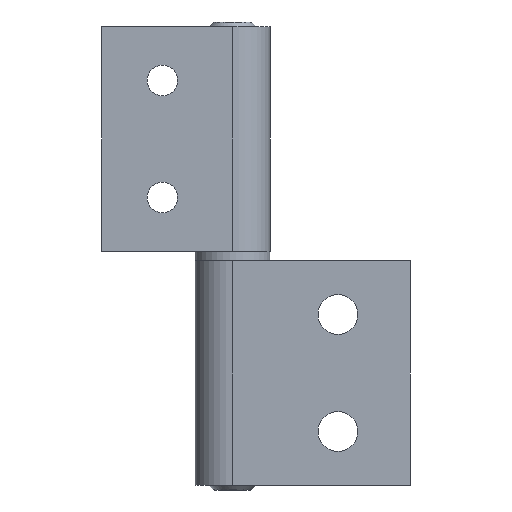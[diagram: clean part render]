
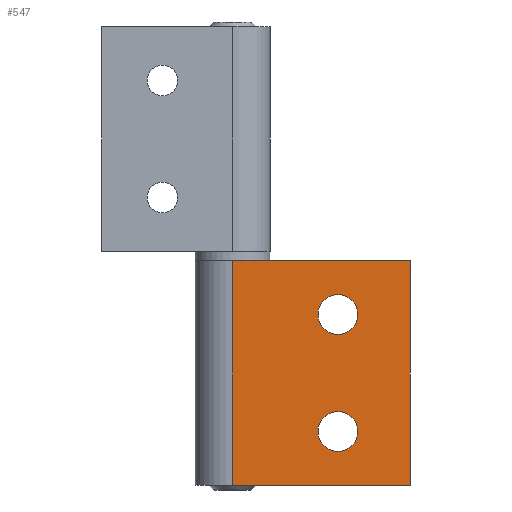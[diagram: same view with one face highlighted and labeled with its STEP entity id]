
A CAD part, front view. The second image highlights one B-rep face of the part: STEP entity #547.
In plain terms, the highlighted planar face has unit normal (0, -1, 0).
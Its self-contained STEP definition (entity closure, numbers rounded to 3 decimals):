
#27=FACE_BOUND('',#121,.T.);
#28=FACE_BOUND('',#122,.T.);
#43=PLANE('',#632);
#80=FACE_OUTER_BOUND('',#120,.T.);
#120=EDGE_LOOP('',(#475,#476,#477,#478));
#121=EDGE_LOOP('',(#479));
#122=EDGE_LOOP('',(#480));
#158=LINE('',#907,#197);
#167=LINE('',#938,#206);
#172=LINE('',#953,#211);
#173=LINE('',#955,#212);
#197=VECTOR('',#732,1000.);
#206=VECTOR('',#765,1000.);
#211=VECTOR('',#780,1000.);
#212=VECTOR('',#783,1000.);
#233=CIRCLE('',#619,4.25);
#234=CIRCLE('',#621,4.25);
#274=VERTEX_POINT('',#901);
#276=VERTEX_POINT('',#905);
#279=VERTEX_POINT('',#915);
#280=VERTEX_POINT('',#919);
#286=VERTEX_POINT('',#937);
#291=VERTEX_POINT('',#951);
#336=EDGE_CURVE('',#274,#276,#158,.T.);
#340=EDGE_CURVE('',#279,#279,#233,.T.);
#342=EDGE_CURVE('',#280,#280,#234,.T.);
#351=EDGE_CURVE('',#274,#286,#167,.T.);
#359=EDGE_CURVE('',#286,#291,#172,.T.);
#360=EDGE_CURVE('',#276,#291,#173,.T.);
#475=ORIENTED_EDGE('',*,*,#360,.T.);
#476=ORIENTED_EDGE('',*,*,#359,.F.);
#477=ORIENTED_EDGE('',*,*,#351,.F.);
#478=ORIENTED_EDGE('',*,*,#336,.T.);
#479=ORIENTED_EDGE('',*,*,#340,.T.);
#480=ORIENTED_EDGE('',*,*,#342,.T.);
#547=ADVANCED_FACE('',(#80,#27,#28),#43,.F.);
#619=AXIS2_PLACEMENT_3D('',#916,#742,#743);
#621=AXIS2_PLACEMENT_3D('',#920,#747,#748);
#632=AXIS2_PLACEMENT_3D('',#954,#781,#782);
#732=DIRECTION('',(0.,0.,-1.));
#742=DIRECTION('center_axis',(0.,1.,0.));
#743=DIRECTION('ref_axis',(0.,0.,1.));
#747=DIRECTION('center_axis',(0.,1.,0.));
#748=DIRECTION('ref_axis',(0.,0.,1.));
#765=DIRECTION('',(1.,0.,0.));
#780=DIRECTION('',(0.,0.,-1.));
#781=DIRECTION('center_axis',(0.,1.,0.));
#782=DIRECTION('ref_axis',(0.,0.,1.));
#783=DIRECTION('',(1.,0.,0.));
#901=CARTESIAN_POINT('',(8.333,-2.805,-26.));
#905=CARTESIAN_POINT('',(8.333,-2.805,-74.));
#907=CARTESIAN_POINT('',(8.333,-2.805,-26.));
#915=CARTESIAN_POINT('',(30.833,-2.805,-41.75));
#916=CARTESIAN_POINT('Origin',(30.833,-2.805,-37.5));
#919=CARTESIAN_POINT('',(30.833,-2.805,-66.75));
#920=CARTESIAN_POINT('Origin',(30.833,-2.805,-62.5));
#937=CARTESIAN_POINT('',(46.333,-2.805,-26.));
#938=CARTESIAN_POINT('',(8.333,-2.805,-26.));
#951=CARTESIAN_POINT('',(46.333,-2.805,-74.));
#953=CARTESIAN_POINT('',(46.333,-2.805,-26.));
#954=CARTESIAN_POINT('Origin',(8.333,-2.805,-26.));
#955=CARTESIAN_POINT('',(8.333,-2.805,-74.));
